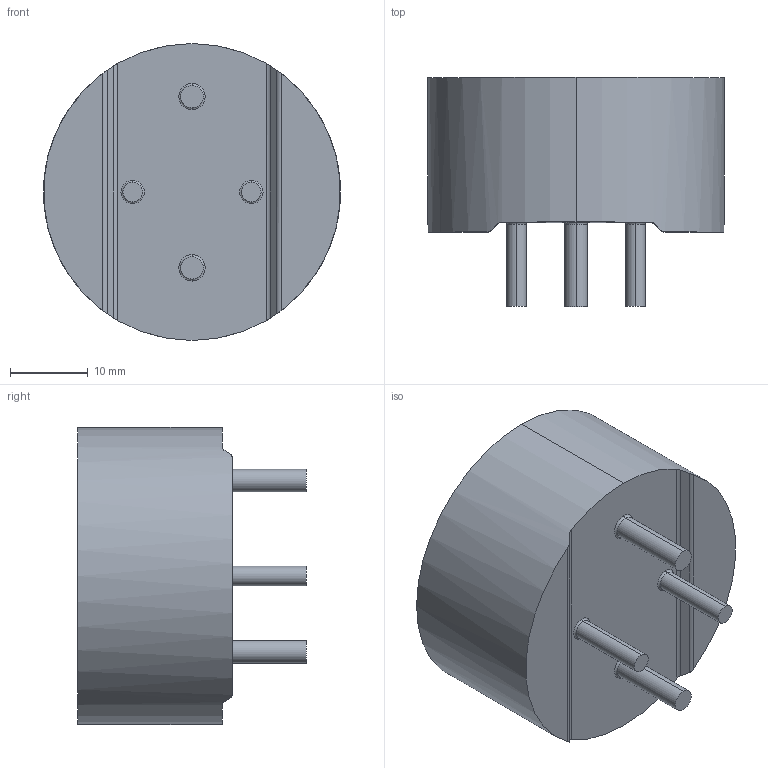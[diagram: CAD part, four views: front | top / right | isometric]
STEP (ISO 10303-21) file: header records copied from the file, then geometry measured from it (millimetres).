
FILE_DESCRIPTION (( 'STEP AP214' ), '1' );
FILE_NAME ('IHTH-1500TZ-5A 6.8uH.STEP', '2025-03-14T19:37:37', ( '' ), ( '' ), 'SwSTEP 2.0', 'SolidWorks 2024', '' );
FILE_SCHEMA (( 'AUTOMOTIVE_DESIGN' ));
Length unit declared in the file: inch
Products named in the file (1): IHTH-1500TZ-5A 6.8uH
Bounding box: 38.1 x 29.34 x 38.1 mm (x, y, z)
Volume: 21872.6 mm3; surface area: 4986.5 mm2
Topology: 1 solids, 1 shells, 221 faces, 565 edges, 374 vertices
Faces by surface type: plane 128, bspline 67, cylinder 18, torus 8
Entity records: 10528 total; most frequent: CARTESIAN_POINT 5576, ORIENTED_EDGE 1130, DIRECTION 777, EDGE_CURVE 565, VERTEX_POINT 374, VECTOR 371, LINE 371, EDGE_LOOP 249
